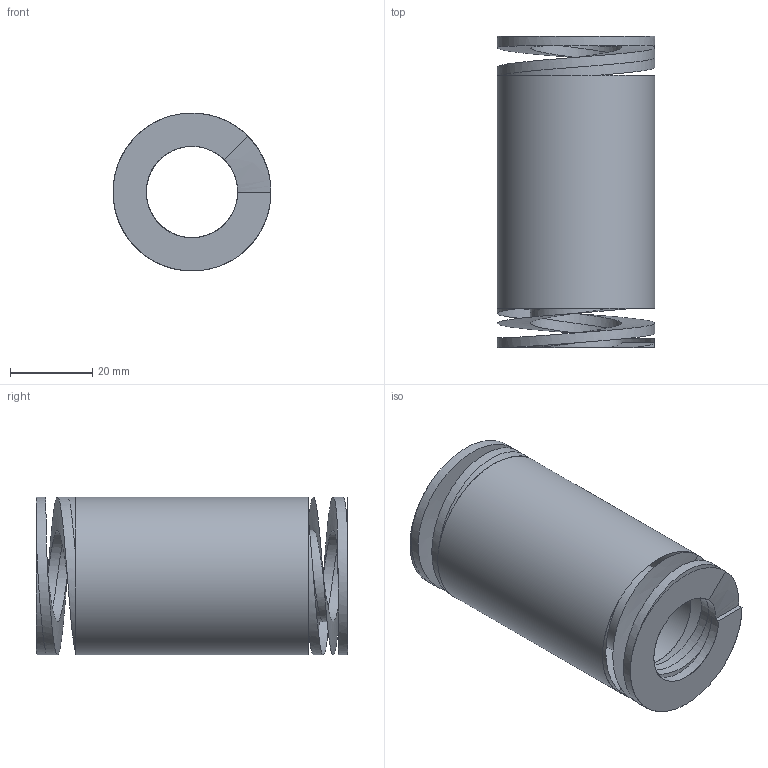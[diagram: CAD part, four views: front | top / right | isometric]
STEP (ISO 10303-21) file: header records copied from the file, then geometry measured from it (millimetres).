
FILE_DESCRIPTION(/* description */ ('Max 37,5% | 28.5 | 3078'),/* implementation_level */ '2;1');
FILE_NAME(/* name */ '2S38075.step',/* time_stamp */ '2026-10-07T11:32:25+02:00',/* author */ ('2S'),/* organization */ ('8,1x4,8 prostokatny'),/* preprocessor_version */ 'ST-DEVELOPER v20.1',/* originating_system */ 'Autodesk Inventor 2026',/* authorisation */ '108');
FILE_SCHEMA (('AUTOMOTIVE_DESIGN { 1 0 10303 214 3 1 1 }'));
Length unit declared in the file: millimetre
Products named in the file (1): 2S38075
Bounding box: 38.51 x 76 x 38.5 mm (x, y, z)
Volume: 53134.1 mm3; surface area: 18565.5 mm2
Topology: 1 solids, 1 shells, 22 faces, 60 edges, 38 vertices
Faces by surface type: bspline 14, plane 6, cylinder 2
Full cylindrical faces by diameter (mm): 22.299 x1, 38.501 x1
Entity records: 3144 total; most frequent: CARTESIAN_POINT 2668, ORIENTED_EDGE 120, EDGE_CURVE 60, B_SPLINE_CURVE_WITH_KNOTS 48, VERTEX_POINT 38, DIRECTION 34, EDGE_LOOP 26, FACE_OUTER_BOUND 22
